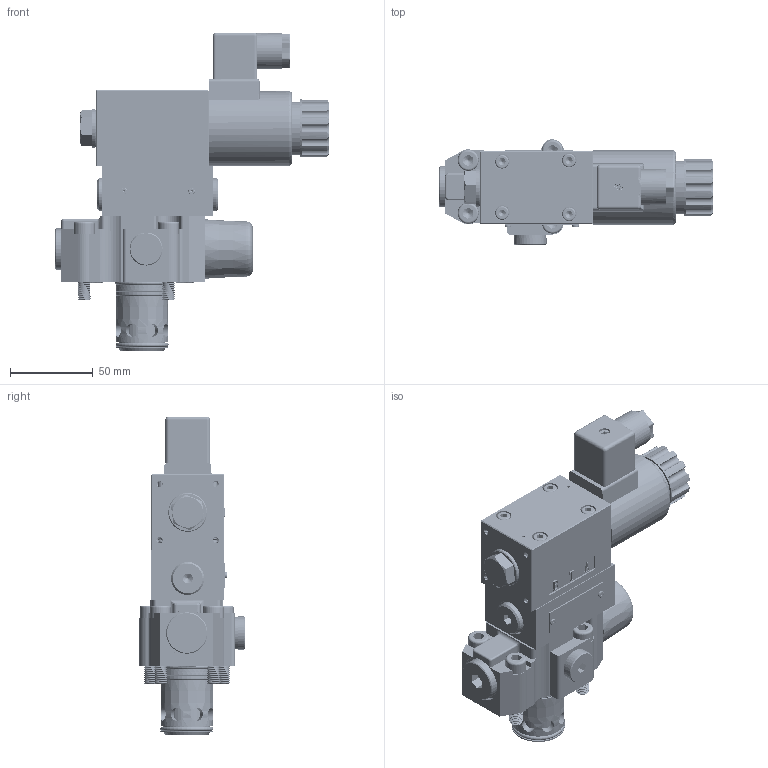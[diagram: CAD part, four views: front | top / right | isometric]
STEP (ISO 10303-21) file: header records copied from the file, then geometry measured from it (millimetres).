
FILE_DESCRIPTION(/* description */ (''),/* implementation_level */ '2;1');
FILE_NAME(/* name */ 'DBWC10B-2-5XJ 200USCG24N9K4 R12.stp',/* time_stamp */ '2023-06-15T11:47:45+08:00',/* author */ (''),/* organization */ (''),/* preprocessor_version */ 'ST-DEVELOPER v16.7',/* originating_system */ 'SIEMENS PLM Software NX 12.0',/* authorisation */ '');
FILE_SCHEMA (('AUTOMOTIVE_DESIGN { 1 0 10303 214 3 1 1 1 }'));
Products named in the file (1): DBWC10B-2-5XJ 200USCG24N9K4R12
Bounding box: 165.5 x 63.75 x 193 mm (x, y, z)
Volume: 206355.7 mm3; surface area: 188988.9 mm2
Topology: 70 solids, 75 shells, 2108 faces, 5220 edges, 3302 vertices
Faces by surface type: cylinder 900, plane 685, cone 202, bspline 143, torus 110, extrusion 40, sphere 28
Full cylindrical faces by diameter (mm): 1 x1, 1.2 x3, 1.5 x4, 1.8 x6, 2 x7, 2.55 x20, 3 x51, 3.4 x63, 3.5 x1, 4 x3, 4.2 x9, 4.3 x48, 4.4 x2, 4.5 x1, 4.6 x2, 5 x147, 5.3 x4, 5.4 x5, 5.5 x2, 6 x9, 6.5 x1, 6.6 x2, 7 x2, 8 x15, 8.1 x1, 8.28 x4, 8.4 x4, 9 x1, 9.4 x4, 9.5 x3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
Entity records: 222463 total; most frequent: CARTESIAN_POINT 186229, DIRECTION 6859, ORIENTED_EDGE 6672, EDGE_CURVE 3336, AXIS2_PLACEMENT_3D 2823, EDGE_LOOP 2445, VERTEX_POINT 2365, ADVANCED_FACE 1728
